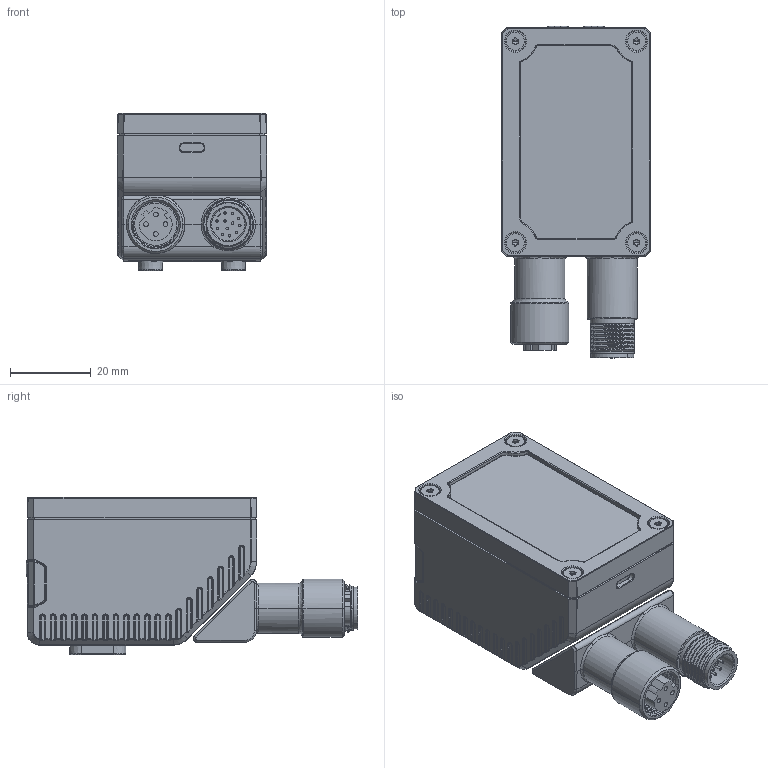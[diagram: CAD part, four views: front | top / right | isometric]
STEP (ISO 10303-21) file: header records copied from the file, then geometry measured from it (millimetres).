
FILE_DESCRIPTION((''),'2;1');
FILE_NAME('DH9-RDI000608-6016-01_1_1_1','2025-06-24T17:54:34',('23989'),(''),'CREO PARAMETRIC BY PTC INC, 2020184','CREO PARAMETRIC BY PTC INC, 2020184','');
FILE_SCHEMA(('CONFIG_CONTROL_DESIGN','SHAPE_APPEARANCE_LAYERS_GROUPS'));
Products named in the file (1): DH9-RDI000608-6016-01_1_1_1
Bounding box: 37 x 82.41 x 39 mm (x, y, z)
Volume: 76596 mm3; surface area: 24025.9 mm2
Topology: 3 solids, 39 shells, 2302 faces, 5914 edges, 3652 vertices
Faces by surface type: cylinder 795, plane 580, bspline 316, torus 315, cone 164, sphere 106, extrusion 26
Entity records: 122595 total; most frequent: CARTESIAN_POINT 39975, ORIENTED_EDGE 11540, DIRECTION 11073, PRESENTATION_STYLE_ASSIGNMENT 7293, STYLED_ITEM 5821, CURVE_STYLE 5798, EDGE_CURVE 5798, AXIS2_PLACEMENT_3D 4470
